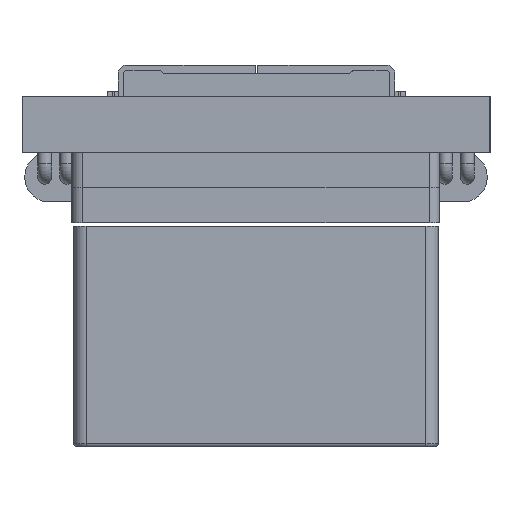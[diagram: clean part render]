
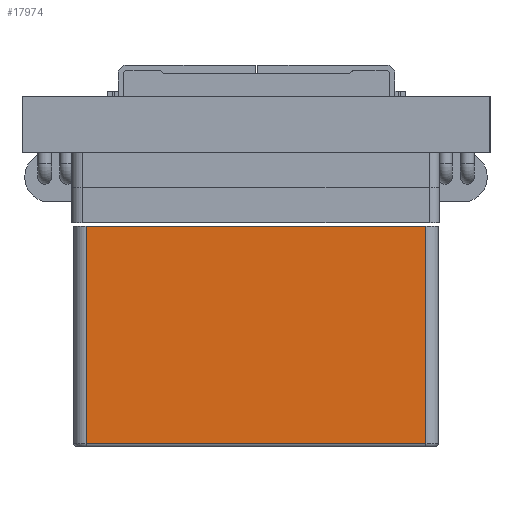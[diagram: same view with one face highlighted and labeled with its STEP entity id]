
A CAD part, front view. The second image highlights one B-rep face of the part: STEP entity #17974.
In plain terms, the highlighted planar face has unit normal (0, -1, 0).
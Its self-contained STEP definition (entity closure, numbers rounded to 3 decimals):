
#16905 = VERTEX_POINT('',#16906);
#16906 = CARTESIAN_POINT('',(-4.85,-5.4,6.3));
#16913 = EDGE_CURVE('',#16914,#16905,#16916,.T.);
#16914 = VERTEX_POINT('',#16915);
#16915 = CARTESIAN_POINT('',(4.85,-5.4,6.3));
#16916 = LINE('',#16917,#16918);
#16917 = CARTESIAN_POINT('',(5.2,-5.4,6.3));
#16918 = VECTOR('',#16919,1.);
#16919 = DIRECTION('',(-1.,0.,0.));
#17974 = ADVANCED_FACE('',(#17975),#18000,.F.);
#17975 = FACE_BOUND('',#17976,.T.);
#17976 = EDGE_LOOP('',(#17977,#17985,#17993,#17999));
#17977 = ORIENTED_EDGE('',*,*,#17978,.T.);
#17978 = EDGE_CURVE('',#16905,#17979,#17981,.T.);
#17979 = VERTEX_POINT('',#17980);
#17980 = CARTESIAN_POINT('',(-4.85,-5.4,0.1));
#17981 = LINE('',#17982,#17983);
#17982 = CARTESIAN_POINT('',(-4.85,-5.4,0.));
#17983 = VECTOR('',#17984,1.);
#17984 = DIRECTION('',(0.,0.,-1.));
#17985 = ORIENTED_EDGE('',*,*,#17986,.T.);
#17986 = EDGE_CURVE('',#17979,#17987,#17989,.T.);
#17987 = VERTEX_POINT('',#17988);
#17988 = CARTESIAN_POINT('',(4.85,-5.4,0.1));
#17989 = LINE('',#17990,#17991);
#17990 = CARTESIAN_POINT('',(4.85,-5.4,0.1));
#17991 = VECTOR('',#17992,1.);
#17992 = DIRECTION('',(1.,0.,0.));
#17993 = ORIENTED_EDGE('',*,*,#17994,.T.);
#17994 = EDGE_CURVE('',#17987,#16914,#17995,.T.);
#17995 = LINE('',#17996,#17997);
#17996 = CARTESIAN_POINT('',(4.85,-5.4,0.));
#17997 = VECTOR('',#17998,1.);
#17998 = DIRECTION('',(0.,0.,1.));
#17999 = ORIENTED_EDGE('',*,*,#16913,.T.);
#18000 = PLANE('',#18001);
#18001 = AXIS2_PLACEMENT_3D('',#18002,#18003,#18004);
#18002 = CARTESIAN_POINT('',(5.2,-5.4,0.));
#18003 = DIRECTION('',(0.,1.,0.));
#18004 = DIRECTION('',(0.,0.,1.));
